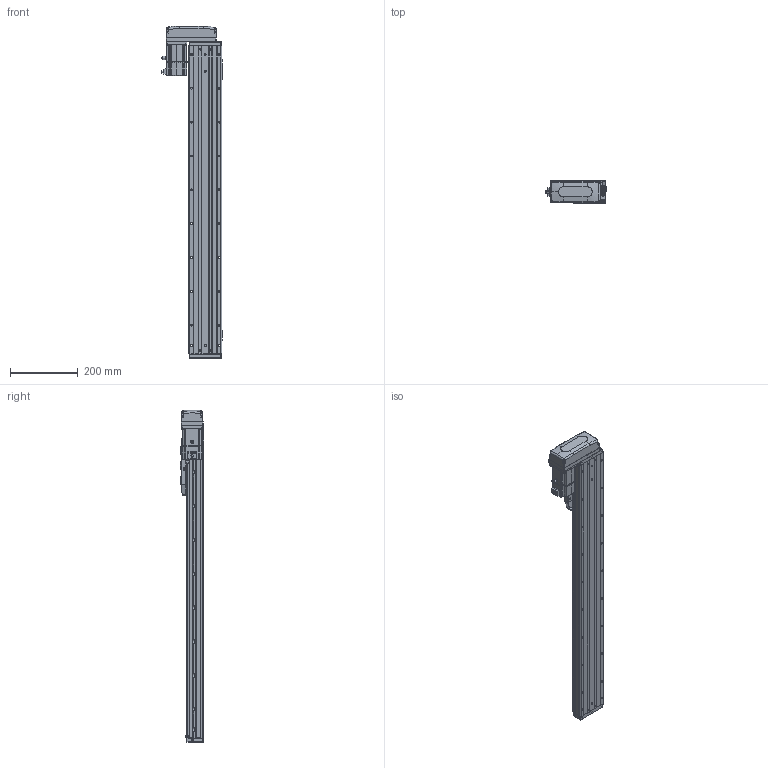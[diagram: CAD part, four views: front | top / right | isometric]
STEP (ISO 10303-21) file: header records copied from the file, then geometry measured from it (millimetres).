
FILE_DESCRIPTION (( 'STEP AP203' ), '1' );
FILE_NAME ('CTHA100-700-BL-M20-C4L.step', '2022-07-06T09:09:44', ( '微软用户' ), ( '微软中国' ), 'SwSTEP 2.0', 'SolidWorks 2020', '' );
FILE_SCHEMA (( 'CONFIG_CONTROL_DESIGN' ));
Length unit declared in the file: millimetre
Products named in the file (19): CTHA100-031; KTHA100-001_910; GBT77-2000 M3×3; CTHA86-030; KTHA100-004; GBT 70.1-M3℅6; GBT 70.3-M3℅6; KTHA100-005; GBT70.1 M5℅16; CTHA86-015-1_CTHA86-015-2; GB¨uT 70.2-M3¡Á5_M3¡Á6; CTHA60-016; CTHA86-033; EE_SX911P_R; _X2_4E0983F1_X0_200W_1; CTHA100-700-BL-M20-C4L; CTHA60-017; CTHA100-002; CTHA60-021
Assembly tree (64 placements, depth 2):
  CTHA100-700-BL-M20-C4L
    KTHA100-001_910
    KTHA100-004
    KTHA100-005
    GB¨uT 70.2-M3¡Á5_M3¡Á6  x10
    EE_SX911P_R  x3
    CTHA60-017  x3
    CTHA60-021  x2
    GBT77-2000 M3×3  x6
    GBT 70.1-M3℅6  x10
    GBT70.1 M5℅16  x14
    CTHA60-016  x2
    _X2_4E0983F1_X0_200W_1
    CTHA100-002
    CTHA100-031
    CTHA86-030  x2
    GBT 70.3-M3℅6  x4
    CTHA86-015-1_CTHA86-015-2
    CTHA86-033
Bounding box: 178.52 x 68 x 981 mm (x, y, z)
Volume: 4080640.5 mm3; surface area: 686799.1 mm2
Topology: 66 solids, 66 shells, 2709 faces, 6527 edges, 4048 vertices
Faces by surface type: plane 1416, cylinder 713, cone 357, torus 124, bspline 75, sphere 24
Entity records: 47284 total; most frequent: CARTESIAN_POINT 9259, DIRECTION 7314, ORIENTED_EDGE 7170, EDGE_CURVE 3585, AXIS2_PLACEMENT_3D 2475, VECTOR 2364, LINE 2364, VERTEX_POINT 2268
